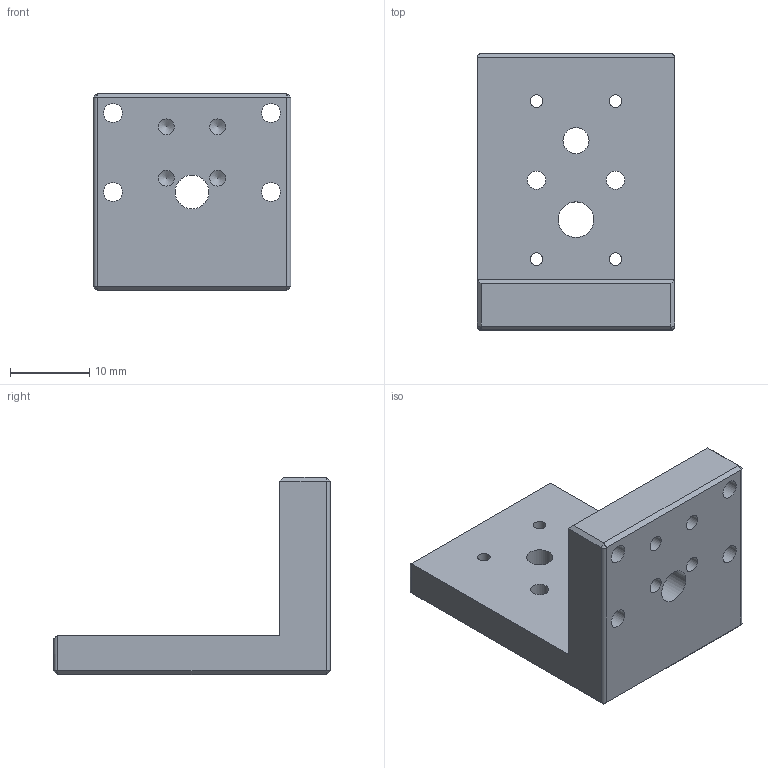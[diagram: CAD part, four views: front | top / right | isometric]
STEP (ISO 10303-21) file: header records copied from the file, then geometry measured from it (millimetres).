
FILE_DESCRIPTION (( 'STEP AP203' ), '1' );
FILE_NAME ('AB-25.step', '2017-01-11T07:12:57', ( '¦K¬P' ), ( '' ), 'SwSTEP 2.0', 'SolidWorks 2012', '' );
FILE_SCHEMA (( 'CONFIG_CONTROL_DESIGN' ));
Length unit declared in the file: millimetre
Products named in the file (1): AB-25
Bounding box: 25 x 35 x 25 mm (x, y, z)
Volume: 7053.1 mm3; surface area: 4114.4 mm2
Topology: 1 solids, 1 shells, 56 faces, 143 edges, 83 vertices
Faces by surface type: cylinder 25, plane 17, cone 14
Full cylindrical faces by diameter (mm): 1.6 x4, 2 x8, 2.3 x2, 2.4 x4, 3.3 x1, 4.3 x1, 4.5 x1
Entity records: 1496 total; most frequent: DIRECTION 255, CARTESIAN_POINT 228, ORIENTED_EDGE 190, EDGE_LOOP 111, AXIS2_PLACEMENT_3D 105, EDGE_CURVE 95, FACE_OUTER_BOUND 77, VERTEX_POINT 70
